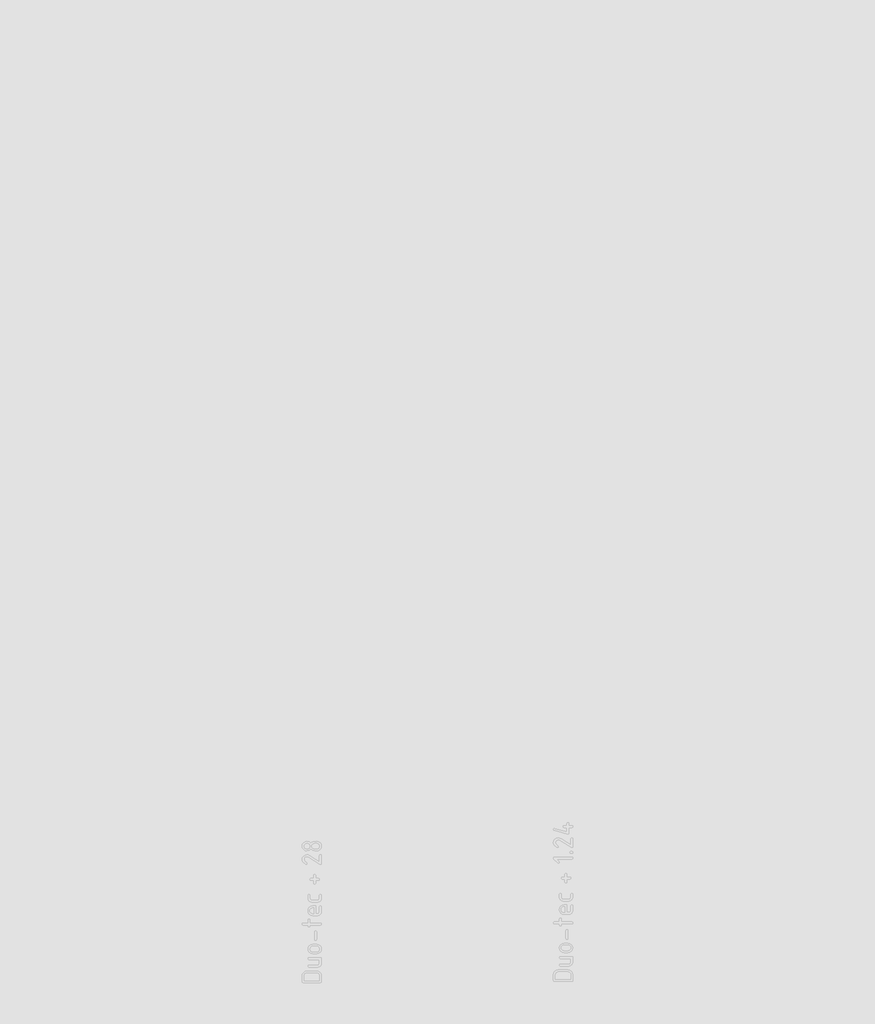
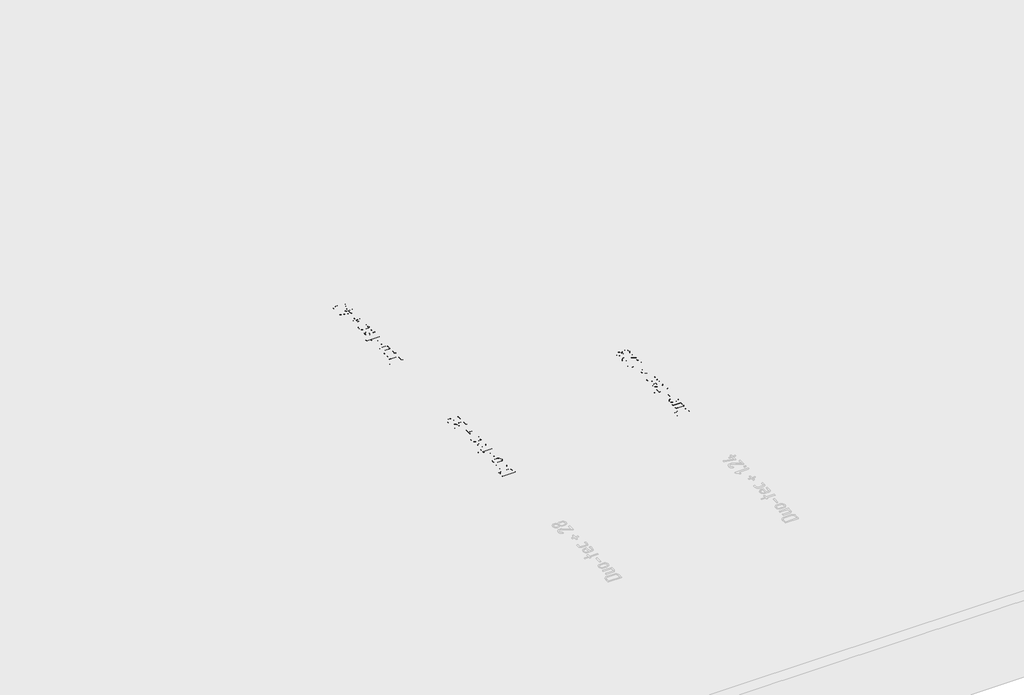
# One storey, part 36 of 37: 3 proxies.
"""IFC4 building model written with IfcOpenShell, lengths in millimetres."""

from ifc_helpers import new_model, si_unit, frame, origin, place, context, project, spatial, polyline, outline, extrude, element, save

model = new_model("IFC4")

# Units and contexts
model_context = context("Model", 3, world=origin())
ifc_project = project(units=[si_unit("LENGTHUNIT", "METRE", prefix="MILLI")], contexts=[model_context])

# Site, building, storey
site = spatial("IfcSite", under=ifc_project)
building = spatial("IfcBuilding", under=site)
storey = spatial("IfcBuildingStorey", under=building, Name="01_Стартовый вид_Площадка", Elevation=0.0)

# Proxies
placement = place(None, origin())
element("IfcBuildingElementProxy", 1, Name="150 мм", ObjectType="150 мм", at=placement, inside=storey, context=model_context, shape_type="SweptSolid", body=[
    extrude(outline(polyline([(19786.8818775, 34.2391471), (19781.2187379, 36.1068845), (19779.3310247, 41.7100967), (19779.3310247, 86.455891), (19782.0577216, 100.9283588), (19790.2378121, 112.9438032), (19802.393087, 121.0340026), (19817.0453371, 123.7307357), (19892.4739618, 123.7307357), (19906.9763934, 121.0040389), (19919.161632, 112.8239484), (19927.4316136, 100.7785403), (19930.1882742, 86.455891), (19930.1882742, 41.7100967), (19928.300561, 36.1068845), (19922.6374214, 34.2391471), (19786.8818775, 34.2391471)]), holes=[polyline([(19794.6724399, 49.5805623), (19914.846859, 49.5805623), (19914.846859, 86.3360362), (19913.1988554, 94.8107698), (19908.2548446, 101.9371368), (19900.9736651, 106.7762746), (19892.3141554, 108.3893205), (19817.2051435, 108.3893205), (19808.5456337, 106.7762746), (19801.2644543, 101.9371368), (19796.3204435, 94.8107698), (19794.6724399, 86.3360362), (19794.6724399, 49.5805623)])]), frame((0.0, 0.0, -10.0), z_axis=(0.0, 0.0, 1.0), x_axis=(1.0, 0.0, 0.0)), (0.0, 0.0, 1.0), 10.0),
    extrude(outline(polyline([(19832.8262199, 228.5637396), (19922.7173246, 228.5637396), (19928.3205368, 226.7059901), (19930.1882742, 221.1327416), (19930.1882742, 184.0576549), (19928.0208998, 172.5615814), (19921.5187765, 163.0031606), (19911.8604767, 156.5609647), (19900.2245726, 154.4135661), (19832.8262199, 154.4135661), (19827.2230077, 156.331243), (19825.3552703, 162.0842737), (19827.2230077, 167.8373044), (19832.8262199, 169.7549813), (19899.9449114, 169.7549813), (19910.4322069, 174.0298027), (19914.846859, 184.2574129), (19914.846859, 213.2223244), (19832.8262199, 213.2223244), (19827.2230077, 215.1400013), (19825.3552703, 220.893032), (19827.2230077, 226.6460627), (19832.8262199, 228.5637396)])), frame((0.0, 0.0, -10.0), z_axis=(0.0, 0.0, 1.0), x_axis=(1.0, 0.0, 0.0)), (0.0, 0.0, 1.0), 10.0),
    extrude(outline(polyline([(19892.753623, 259.24657), (19862.7899215, 259.24657), (19848.3973568, 261.958285), (19836.3020093, 270.0934299), (19828.0919551, 282.0739166), (19825.3552703, 296.3216567), (19828.0619914, 310.7192153), (19836.1821545, 322.6697383), (19848.2475383, 330.7149921), (19862.7899215, 333.3967434), (19892.753623, 333.3967434), (19907.1461877, 330.6850284), (19919.2415352, 322.5498835), (19927.4515894, 310.5693968), (19930.1882742, 296.3216567), (19927.4515894, 282.0739166), (19919.2415352, 270.0934299), (19907.1461877, 261.958285), (19892.753623, 259.24657)]), holes=[polyline([(19892.3141554, 318.0553282), (19862.3105022, 318.0553282), (19853.6809562, 316.4622581), (19846.4097646, 311.6830477), (19841.4657539, 304.6565597), (19839.8177503, 296.3216567), (19841.4657539, 287.9867537), (19846.4097646, 280.9602657), (19853.6809562, 276.1810553), (19862.3105022, 274.5879852), (19892.3141554, 274.5879852), (19901.0236047, 276.1660734), (19908.2947962, 280.9003383), (19913.2088433, 287.9118445), (19914.846859, 296.3216567), (19913.1988554, 304.6565597), (19908.2548446, 311.6830477), (19900.9736651, 316.4622581), (19892.3141554, 318.0553282)])]), frame((0.0, 0.0, -10.0), z_axis=(0.0, 0.0, 1.0), x_axis=(1.0, 0.0, 0.0)), (0.0, 0.0, 1.0), 10.0),
    extrude(outline(polyline([(19891.8347362, 431.2382169), (19891.8347362, 371.2309106), (19889.9170593, 365.5977347), (19884.1640286, 363.7200094), (19878.4109979, 365.5977347), (19876.493321, 371.2309106), (19876.493321, 431.2382169), (19878.4109979, 436.8713928), (19884.1640286, 438.7491181), (19889.9170593, 436.8713928), (19891.8347362, 431.2382169)])), frame((0.0, 0.0, -10.0), z_axis=(0.0, 0.0, 1.0), x_axis=(1.0, 0.0, 0.0)), (0.0, 0.0, 1.0), 10.0),
    extrude(outline(polyline([(19840.6966855, 484.2539929), (19840.6966855, 476.7430917), (19838.7790086, 471.1099158), (19833.0259779, 469.2321905), (19827.2729472, 471.1099158), (19825.3552703, 476.7430917), (19825.3552703, 484.2539929), (19787.0017323, 484.2539929), (19781.2487016, 486.1716698), (19779.3310247, 491.9247005), (19781.2487016, 497.6777312), (19787.0017323, 499.5954081), (19825.3552703, 499.5954081), (19825.3552703, 522.1281116), (19827.2729472, 527.7313238), (19833.0259779, 529.5990612), (19838.7790086, 527.7313238), (19840.6966855, 522.1281116), (19840.6966855, 499.5954081), (19922.7173246, 499.5954081), (19928.3205368, 497.6777312), (19930.1882742, 491.9247005), (19928.3205368, 486.1716698), (19922.7173246, 484.2539929), (19840.6966855, 484.2539929)])), frame((0.0, 0.0, -10.0), z_axis=(0.0, 0.0, 1.0), x_axis=(1.0, 0.0, 0.0)), (0.0, 0.0, 1.0), 10.0),
    extrude(outline(polyline([(19884.1640286, 573.7455815), (19899.5054438, 573.7455815), (19910.3123521, 578.1802093), (19914.846859, 588.7274323), (19914.846859, 626.2419866), (19916.7645359, 631.8751625), (19922.5175666, 633.7528878), (19928.2705973, 631.8751625), (19930.1882742, 626.2419866), (19930.1882742, 588.7274323), (19928.0208998, 577.0715524), (19921.5187765, 567.273422), (19911.8604767, 560.6214802), (19900.2245726, 558.4041663), (19862.7899215, 558.4041663), (19848.3973568, 561.1857966), (19836.3020093, 569.5306875), (19828.0919551, 581.7708596), (19825.3552703, 596.2383335), (19828.0120519, 610.8156743), (19835.9823965, 622.9060279), (19847.8280465, 631.0411728), (19862.1107442, 633.7528878), (19884.1640286, 633.7528878), (19884.1640286, 573.7455815)]), holes=[polyline([(19838.8189602, 596.2383335), (19840.4669638, 587.6087874), (19845.4109746, 580.3375959), (19852.6821661, 575.3935851), (19861.3117122, 573.7455815), (19868.8226134, 573.7455815), (19868.8226134, 618.7310855), (19861.3117122, 618.7310855), (19852.6821661, 617.0830819), (19845.4109746, 612.1390711), (19840.4669638, 604.8678795), (19838.8189602, 596.2383335)])]), frame((0.0, 0.0, -10.0), z_axis=(0.0, 0.0, 1.0), x_axis=(1.0, 0.0, 0.0)), (0.0, 0.0, 1.0), 10.0),
    extrude(outline(polyline([(19855.5187299, 678.5785854), (19900.0248146, 678.5785854), (19910.4721585, 683.0132132), (19914.846859, 693.5604361), (19914.846859, 716.0931397), (19916.7645359, 721.6963519), (19922.5175666, 723.5640893), (19928.2705973, 721.6963519), (19930.1882742, 716.0931397), (19930.1882742, 693.5604361), (19928.0208998, 681.9045562), (19921.5187765, 672.1064258), (19911.8604767, 665.4544841), (19900.2245726, 663.2371702), (19855.3189719, 663.2371702), (19843.6830678, 665.4544841), (19834.024768, 672.1064258), (19827.5226447, 681.9045562), (19825.3552703, 693.5604361), (19825.3552703, 716.0931397), (19827.2729472, 721.6963519), (19833.0259779, 723.5640893), (19838.7790086, 721.6963519), (19840.6966855, 716.0931397), (19840.6966855, 693.5604361), (19845.0314343, 682.9532858), (19855.5187299, 678.5785854)])), frame((0.0, 0.0, -10.0), z_axis=(0.0, 0.0, 1.0), x_axis=(1.0, 0.0, 0.0)), (0.0, 0.0, 1.0), 10.0),
    extrude(outline(polyline([(19884.1640286, 834.5496399), (19884.1640286, 812.0568879), (19882.2463517, 806.423712), (19876.493321, 804.5459867), (19870.7402903, 806.423712), (19868.8226134, 812.0568879), (19868.8226134, 834.5496399), (19847.7281675, 834.5496399), (19842.454556, 836.4673168), (19840.6966855, 842.2203475), (19842.454556, 847.9733782), (19847.7281675, 849.8910551), (19868.8226134, 849.8910551), (19868.8226134, 872.383807), (19870.7402903, 878.0169829), (19876.493321, 879.8947082), (19882.2463517, 878.0169829), (19884.1640286, 872.383807), (19884.1640286, 849.8910551), (19907.1761514, 849.8910551), (19912.9291821, 847.9733782), (19914.846859, 842.2203475), (19912.9291821, 836.4673168), (19907.1761514, 834.5496399), (19884.1640286, 834.5496399)])), frame((0.0, 0.0, -10.0), z_axis=(0.0, 0.0, 1.0), x_axis=(1.0, 0.0, 0.0)), (0.0, 0.0, 1.0), 10.0),
    extrude(outline(polyline([(19805.0598565, 990.5206944), (19822.3589002, 973.2616023), (19824.5162867, 968.0279424), (19822.6385614, 962.3947665), (19817.0053855, 960.5170412), (19811.7717256, 962.7143793), (19782.2874433, 992.0388553), (19779.3310247, 998.191402), (19781.2187379, 1003.9444327), (19786.8818775, 1005.8621096), (19922.6374214, 1005.8621096), (19928.300561, 1003.9444327), (19930.1882742, 998.191402), (19928.300561, 992.4383713), (19922.6374214, 990.5206944), (19805.0598565, 990.5206944)])), frame((0.0, 0.0, -10.0), z_axis=(0.0, 0.0, 1.0), x_axis=(1.0, 0.0, 0.0)), (0.0, 0.0, 1.0), 10.0),
    extrude(outline(polyline([(19914.846859, 1036.54494), (19909.0938283, 1038.4626169), (19907.1761514, 1044.2156476), (19909.0938283, 1049.9686783), (19914.846859, 1051.8863552), (19922.5175666, 1051.8863552), (19928.2705973, 1049.9686783), (19930.1882742, 1044.2156476), (19928.2705973, 1038.4626169), (19922.5175666, 1036.54494), (19914.846859, 1036.54494)])), frame((0.0, 0.0, -10.0), z_axis=(0.0, 0.0, 1.0), x_axis=(1.0, 0.0, 0.0)), (0.0, 0.0, 1.0), 10.0),
    extrude(outline(polyline([(19779.3310247, 1119.7241755), (19782.0826913, 1134.1516978), (19790.3376911, 1146.2720151), (19802.49796, 1154.4970512), (19816.9654339, 1157.2387298), (19827.7623543, 1155.5307989), (19838.6591538, 1150.4070059), (19914.846859, 1103.1442606), (19914.846859, 1149.7278287), (19916.7645359, 1155.3610045), (19922.5175666, 1157.2387298), (19928.2705973, 1155.3610045), (19930.1882742, 1149.7278287), (19930.1882742, 1089.7205223), (19928.3105489, 1084.0873464), (19922.677373, 1082.2096211), (19918.3226484, 1083.4880724), (19829.7099949, 1138.4614769), (19817.2450951, 1142.2169275), (19808.5805914, 1140.5689239), (19801.2844301, 1135.6249131), (19796.3254375, 1128.3537215), (19794.6724399, 1119.7241755), (19799.386729, 1107.4889974), (19813.5295961, 1096.1926819), (19817.1651919, 1089.7205223), (19815.2874666, 1084.0873464), (19809.6542907, 1082.2096211), (19806.5780173, 1082.92875), (19786.1427729, 1099.0991609), (19781.0339618, 1108.8548428), (19779.3310247, 1119.7241755)])), frame((0.0, 0.0, -10.0), z_axis=(0.0, 0.0, 1.0), x_axis=(1.0, 0.0, 0.0)), (0.0, 0.0, 1.0), 10.0),
    extrude(outline(polyline([(19930.1882742, 1224.4772761), (19927.4316136, 1210.2295361), (19919.161632, 1198.2490494), (19906.9763934, 1190.1139044), (19892.4739618, 1187.4021894), (19877.3722562, 1187.4021894), (19860.4627406, 1191.2375432), (19847.2087967, 1202.7436046), (19833.9548527, 1191.2375432), (19817.0453371, 1187.4021894), (19802.5429055, 1190.1139044), (19790.3576669, 1198.2490494), (19782.0876853, 1210.2295361), (19779.3310247, 1224.4772761), (19782.0876853, 1238.7250162), (19790.3576669, 1250.7055029), (19802.5429055, 1258.8406479), (19817.0453371, 1261.5523629), (19833.9548527, 1257.7170091), (19847.2087967, 1246.2109477), (19856.3876772, 1254.4609535), (19867.4642589, 1258.9954603), (19892.4739618, 1261.5523629), (19906.9763934, 1258.8406479), (19919.161632, 1250.7055029), (19927.4316136, 1238.7250162), (19930.1882742, 1224.4772761)]), holes=[polyline([(19840.1773147, 1224.4772761), (19838.544293, 1232.8870884), (19833.6452277, 1239.8985945), (19826.389018, 1244.6328594), (19817.6845627, 1246.2109477), (19809.0550167, 1244.6178775), (19801.7838251, 1239.8386671), (19796.8398143, 1232.8121791), (19795.1918108, 1224.4772761), (19796.8248325, 1216.0674639), (19801.7238977, 1209.0559577), (19808.9801074, 1204.3216929), (19817.6845627, 1202.7436046), (19826.389018, 1204.3216929), (19833.6452277, 1209.0559577), (19838.544293, 1216.0674639), (19840.1773147, 1224.4772761)]), polyline([(19914.846859, 1224.4772761), (19913.2088433, 1232.8870884), (19908.2947962, 1239.8985945), (19901.0236047, 1244.6328594), (19892.3141554, 1246.2109477), (19877.3323046, 1246.2109477), (19868.7027586, 1244.6178775), (19861.431567, 1239.8386671), (19856.4875562, 1232.8121791), (19854.8395527, 1224.4772761), (19856.4725744, 1216.0674639), (19861.3716396, 1209.0559577), (19868.6278493, 1204.3216929), (19877.3323046, 1202.7436046), (19892.3141554, 1202.7436046), (19901.0236047, 1204.3216929), (19908.2947962, 1209.0559577), (19913.2088433, 1216.0674639), (19914.846859, 1224.4772761)])]), frame((0.0, 0.0, -10.0), z_axis=(0.0, 0.0, 1.0), x_axis=(1.0, 0.0, 0.0)), (0.0, 0.0, 1.0), 10.0),
])
element("IfcBuildingElementProxy", 2, Name="150 мм", ObjectType="150 мм", at=placement, inside=storey, context=model_context, shape_type="SweptSolid", body=[
    extrude(outline(polyline([(17819.9837715, 5.2255376), (17814.3206319, 7.093275), (17812.4329187, 12.6964871), (17812.4329187, 57.4422815), (17815.1596155, 71.9147493), (17823.3397061, 83.9301937), (17835.494981, 92.0203931), (17850.1472311, 94.7171262), (17925.5758558, 94.7171262), (17940.0782873, 91.9904294), (17952.263526, 83.8103388), (17960.5335076, 71.7649308), (17963.2901681, 57.4422815), (17963.2901681, 12.6964871), (17961.4024549, 7.093275), (17955.7393153, 5.2255376), (17819.9837715, 5.2255376)]), holes=[polyline([(17827.7743339, 20.5669528), (17947.9487529, 20.5669528), (17947.9487529, 57.3224267), (17946.3007494, 65.7971603), (17941.3567386, 72.9235273), (17934.0755591, 77.7626651), (17925.4160494, 79.375711), (17850.3070375, 79.375711), (17841.6475277, 77.7626651), (17834.3663482, 72.9235273), (17829.4223375, 65.7971603), (17827.7743339, 57.3224267), (17827.7743339, 20.5669528)])]), frame((0.0, 0.0, -10.0), z_axis=(0.0, 0.0, 1.0), x_axis=(1.0, 0.0, 0.0)), (0.0, 0.0, 1.0), 10.0),
    extrude(outline(polyline([(17865.9281139, 199.5501301), (17955.8192185, 199.5501301), (17961.4224307, 197.6923806), (17963.2901681, 192.1191321), (17963.2901681, 155.0440453), (17961.1227937, 143.5479719), (17954.6206705, 133.9895511), (17944.9623707, 127.5473552), (17933.3264666, 125.3999566), (17865.9281139, 125.3999566), (17860.3249017, 127.3176335), (17858.4571643, 133.0706642), (17860.3249017, 138.8236949), (17865.9281139, 140.7413718), (17933.0468054, 140.7413718), (17943.5341009, 145.0161932), (17947.9487529, 155.2438034), (17947.9487529, 184.2087149), (17865.9281139, 184.2087149), (17860.3249017, 186.1263918), (17858.4571643, 191.8794225), (17860.3249017, 197.6324532), (17865.9281139, 199.5501301)])), frame((0.0, 0.0, -10.0), z_axis=(0.0, 0.0, 1.0), x_axis=(1.0, 0.0, 0.0)), (0.0, 0.0, 1.0), 10.0),
    extrude(outline(polyline([(17925.855517, 230.2329605), (17895.8918154, 230.2329605), (17881.4992508, 232.9446754), (17869.4039033, 241.0798204), (17861.193849, 253.0603071), (17858.4571643, 267.3080472), (17861.1638853, 281.7056058), (17869.2840485, 293.6561288), (17881.3494323, 301.7013826), (17895.8918154, 304.3831339), (17925.855517, 304.3831339), (17940.2480816, 301.6714189), (17952.3434292, 293.5362739), (17960.5534834, 281.5557873), (17963.2901681, 267.3080472), (17960.5534834, 253.0603071), (17952.3434292, 241.0798204), (17940.2480816, 232.9446754), (17925.855517, 230.2329605)]), holes=[polyline([(17925.4160494, 289.0417187), (17895.4123962, 289.0417187), (17886.7828502, 287.4486486), (17879.5116586, 282.6694382), (17874.5676478, 275.6429502), (17872.9196442, 267.3080472), (17874.5676478, 258.9731442), (17879.5116586, 251.9466562), (17886.7828502, 247.1674458), (17895.4123962, 245.5743757), (17925.4160494, 245.5743757), (17934.1254986, 247.1524639), (17941.3966902, 251.8867288), (17946.3107373, 258.8982349), (17947.9487529, 267.3080472), (17946.3007494, 275.6429502), (17941.3567386, 282.6694382), (17934.0755591, 287.4486486), (17925.4160494, 289.0417187)])]), frame((0.0, 0.0, -10.0), z_axis=(0.0, 0.0, 1.0), x_axis=(1.0, 0.0, 0.0)), (0.0, 0.0, 1.0), 10.0),
    extrude(outline(polyline([(17924.9366301, 402.2246074), (17924.9366301, 342.2173011), (17923.0189532, 336.5841252), (17917.2659225, 334.7063999), (17911.5128918, 336.5841252), (17909.5952149, 342.2173011), (17909.5952149, 402.2246074), (17911.5128918, 407.8577833), (17917.2659225, 409.7355086), (17923.0189532, 407.8577833), (17924.9366301, 402.2246074)])), frame((0.0, 0.0, -10.0), z_axis=(0.0, 0.0, 1.0), x_axis=(1.0, 0.0, 0.0)), (0.0, 0.0, 1.0), 10.0),
    extrude(outline(polyline([(17873.7985795, 455.2403834), (17873.7985795, 447.7294822), (17871.8809026, 442.0963063), (17866.1278719, 440.218581), (17860.3748412, 442.0963063), (17858.4571643, 447.7294822), (17858.4571643, 455.2403834), (17820.1036263, 455.2403834), (17814.3505956, 457.1580603), (17812.4329187, 462.911091), (17814.3505956, 468.6641217), (17820.1036263, 470.5817986), (17858.4571643, 470.5817986), (17858.4571643, 493.1145021), (17860.3748412, 498.7177143), (17866.1278719, 500.5854517), (17871.8809026, 498.7177143), (17873.7985795, 493.1145021), (17873.7985795, 470.5817986), (17955.8192185, 470.5817986), (17961.4224307, 468.6641217), (17963.2901681, 462.911091), (17961.4224307, 457.1580603), (17955.8192185, 455.2403834), (17873.7985795, 455.2403834)])), frame((0.0, 0.0, -10.0), z_axis=(0.0, 0.0, 1.0), x_axis=(1.0, 0.0, 0.0)), (0.0, 0.0, 1.0), 10.0),
    extrude(outline(polyline([(17917.2659225, 544.731972), (17932.6073377, 544.731972), (17943.4142461, 549.1665998), (17947.9487529, 559.7138228), (17947.9487529, 597.2283771), (17949.8664298, 602.861553), (17955.6194605, 604.7392783), (17961.3724912, 602.861553), (17963.2901681, 597.2283771), (17963.2901681, 559.7138228), (17961.1227937, 548.0579429), (17954.6206705, 538.2598125), (17944.9623707, 531.6078707), (17933.3264666, 529.3905568), (17895.8918154, 529.3905568), (17881.4992508, 532.1721871), (17869.4039033, 540.517078), (17861.193849, 552.7572501), (17858.4571643, 567.224724), (17861.1139458, 581.8020648), (17869.0842904, 593.8924184), (17880.9299405, 602.0275633), (17895.2126382, 604.7392783), (17917.2659225, 604.7392783), (17917.2659225, 544.731972)]), holes=[polyline([(17871.9208542, 567.224724), (17873.5688578, 558.5951779), (17878.5128685, 551.3239864), (17885.7840601, 546.3799756), (17894.4136062, 544.731972), (17901.9245073, 544.731972), (17901.9245073, 589.7174759), (17894.4136062, 589.7174759), (17885.7840601, 588.0694724), (17878.5128685, 583.1254616), (17873.5688578, 575.85427), (17871.9208542, 567.224724)])]), frame((0.0, 0.0, -10.0), z_axis=(0.0, 0.0, 1.0), x_axis=(1.0, 0.0, 0.0)), (0.0, 0.0, 1.0), 10.0),
    extrude(outline(polyline([(17888.6206239, 649.5649759), (17933.1267086, 649.5649759), (17943.5740525, 653.9996037), (17947.9487529, 664.5468266), (17947.9487529, 687.0795302), (17949.8664298, 692.6827424), (17955.6194605, 694.5504798), (17961.3724912, 692.6827424), (17963.2901681, 687.0795302), (17963.2901681, 664.5468266), (17961.1227937, 652.8909467), (17954.6206705, 643.0928163), (17944.9623707, 636.4408746), (17933.3264666, 634.2235607), (17888.4208658, 634.2235607), (17876.7849617, 636.4408746), (17867.1266619, 643.0928163), (17860.6245387, 652.8909467), (17858.4571643, 664.5468266), (17858.4571643, 687.0795302), (17860.3748412, 692.6827424), (17866.1278719, 694.5504798), (17871.8809026, 692.6827424), (17873.7985795, 687.0795302), (17873.7985795, 664.5468266), (17878.1333283, 653.9396763), (17888.6206239, 649.5649759)])), frame((0.0, 0.0, -10.0), z_axis=(0.0, 0.0, 1.0), x_axis=(1.0, 0.0, 0.0)), (0.0, 0.0, 1.0), 10.0),
    extrude(outline(polyline([(17917.2659225, 805.5360304), (17917.2659225, 783.0432784), (17915.3482456, 777.4101025), (17909.5952149, 775.5323772), (17903.8421842, 777.4101025), (17901.9245073, 783.0432784), (17901.9245073, 805.5360304), (17880.8300615, 805.5360304), (17875.55645, 807.4537073), (17873.7985795, 813.206738), (17875.55645, 818.9597687), (17880.8300615, 820.8774456), (17901.9245073, 820.8774456), (17901.9245073, 843.3701975), (17903.8421842, 849.0033734), (17909.5952149, 850.8810987), (17915.3482456, 849.0033734), (17917.2659225, 843.3701975), (17917.2659225, 820.8774456), (17940.2780453, 820.8774456), (17946.031076, 818.9597687), (17947.9487529, 813.206738), (17946.031076, 807.4537073), (17940.2780453, 805.5360304), (17917.2659225, 805.5360304)])), frame((0.0, 0.0, -10.0), z_axis=(0.0, 0.0, 1.0), x_axis=(1.0, 0.0, 0.0)), (0.0, 0.0, 1.0), 10.0),
    extrude(outline(polyline([(17889.1399947, 967.1402608), (17889.1399947, 952.15841), (17887.2223178, 946.5252341), (17881.4692871, 944.6475088), (17875.7162564, 946.5252341), (17873.7985795, 952.15841), (17873.7985795, 967.1402608), (17872.1256061, 975.8447161), (17867.1066861, 983.1009258), (17859.6806821, 987.999991), (17850.7864567, 989.6330127), (17841.9421708, 987.9850092), (17834.5061788, 983.0409984), (17829.4572951, 975.7698068), (17827.7743339, 967.1402608), (17827.7743339, 937.1366076), (17825.856657, 931.5034317), (17820.1036263, 929.6257064), (17814.3505956, 931.5034317), (17812.4329187, 937.1366076), (17812.4329187, 967.1402608), (17815.2495066, 981.6077347), (17823.6992705, 993.8479068), (17836.1042429, 1002.1927976), (17850.7864567, 1004.9744279), (17867.9856214, 1001.2189773), (17881.4692871, 989.9526256), (17894.5434489, 1001.2189773), (17911.2332306, 1004.9744279), (17926.0952266, 1004.9744279), (17940.407888, 1002.1778158), (17952.4233324, 993.7879794), (17960.5734592, 981.5328254), (17963.2901681, 967.1402608), (17963.2901681, 937.1366076), (17961.3724912, 931.5034317), (17955.6194605, 929.6257064), (17949.8664298, 931.5034317), (17947.9487529, 937.1366076), (17947.9487529, 967.1402608), (17946.3456949, 975.8447161), (17941.5365208, 983.1009258), (17934.4201417, 987.999991), (17925.8954686, 989.6330127), (17911.193279, 989.6330127), (17902.7185454, 987.9850092), (17895.5921784, 983.0409984), (17890.7530406, 975.7698068), (17889.1399947, 967.1402608)])), frame((0.0, 0.0, -10.0), z_axis=(0.0, 0.0, 1.0), x_axis=(1.0, 0.0, 0.0)), (0.0, 0.0, 1.0), 10.0),
    extrude(outline(polyline([(17889.1399947, 1071.9732646), (17889.1399947, 1056.9914138), (17887.2223178, 1051.3582379), (17881.4692871, 1049.4805126), (17875.7162564, 1051.3582379), (17873.7985795, 1056.9914138), (17873.7985795, 1071.9732646), (17872.1256061, 1080.6777199), (17867.1066861, 1087.9339296), (17859.6806821, 1092.8329949), (17850.7864567, 1094.4660166), (17841.9421708, 1092.818013), (17834.5061788, 1087.8740022), (17829.4572951, 1080.6028107), (17827.7743339, 1071.9732646), (17827.7743339, 1041.9696115), (17825.856657, 1036.3364356), (17820.1036263, 1034.4587103), (17814.3505956, 1036.3364356), (17812.4329187, 1041.9696115), (17812.4329187, 1071.9732646), (17815.2495066, 1086.4407385), (17823.6992705, 1098.6809106), (17836.1042429, 1107.0258015), (17850.7864567, 1109.8074318), (17867.9856214, 1106.0519812), (17881.4692871, 1094.7856294), (17894.5434489, 1106.0519812), (17911.2332306, 1109.8074318), (17926.0952266, 1109.8074318), (17940.407888, 1107.0108196), (17952.4233324, 1098.6209832), (17960.5734592, 1086.3658293), (17963.2901681, 1071.9732646), (17963.2901681, 1041.9696115), (17961.3724912, 1036.3364356), (17955.6194605, 1034.4587103), (17949.8664298, 1036.3364356), (17947.9487529, 1041.9696115), (17947.9487529, 1071.9732646), (17946.3456949, 1080.6777199), (17941.5365208, 1087.9339296), (17934.4201417, 1092.8329949), (17925.8954686, 1094.4660166), (17911.193279, 1094.4660166), (17902.7185454, 1092.818013), (17895.5921784, 1087.8740022), (17890.7530406, 1080.6028107), (17889.1399947, 1071.9732646)])), frame((0.0, 0.0, -10.0), z_axis=(0.0, 0.0, 1.0), x_axis=(1.0, 0.0, 0.0)), (0.0, 0.0, 1.0), 10.0),
])
element("IfcBuildingElementProxy", 3, Name="150 мм", ObjectType="150 мм", at=placement, inside=storey, context=model_context, shape_type="SweptSolid", body=[
    extrude(outline(polyline([(17823.5195626, 2169.6582761), (17817.856423, 2171.5260135), (17815.9687098, 2177.1292257), (17815.9687098, 2221.87502), (17818.6954066, 2236.3474879), (17826.8754971, 2248.3629322), (17839.0307721, 2256.4531316), (17853.6830221, 2259.1498648), (17929.1116469, 2259.1498648), (17943.6140784, 2256.4231679), (17955.799317, 2248.2430774), (17964.0692987, 2236.1976694), (17966.8259592, 2221.87502), (17966.8259592, 2177.1292257), (17964.938246, 2171.5260135), (17959.2751064, 2169.6582761), (17823.5195626, 2169.6582761)]), holes=[polyline([(17831.310125, 2184.9996913), (17951.484544, 2184.9996913), (17951.484544, 2221.7551652), (17949.8365404, 2230.2298988), (17944.8925297, 2237.3562658), (17937.6113502, 2242.1954036), (17928.9518404, 2243.8084496), (17853.8428285, 2243.8084496), (17845.1833188, 2242.1954036), (17837.9021393, 2237.3562658), (17832.9581286, 2230.2298988), (17831.310125, 2221.7551652), (17831.310125, 2184.9996913)])]), frame((0.0, 0.0, -10.0), z_axis=(0.0, 0.0, 1.0), x_axis=(1.0, 0.0, 0.0)), (0.0, 0.0, 1.0), 10.0),
    extrude(outline(polyline([(17869.463905, 2363.9828686), (17959.3550096, 2363.9828686), (17964.9582218, 2362.1251191), (17966.8259592, 2356.5518706), (17966.8259592, 2319.4767839), (17964.6585848, 2307.9807104), (17958.1564616, 2298.4222896), (17948.4981618, 2291.9800938), (17936.8622577, 2289.8326952), (17869.463905, 2289.8326952), (17863.8606928, 2291.7503721), (17861.9929554, 2297.5034028), (17863.8606928, 2303.2564335), (17869.463905, 2305.1741104), (17936.5825964, 2305.1741104), (17947.069892, 2309.4489318), (17951.484544, 2319.6765419), (17951.484544, 2348.6414534), (17869.463905, 2348.6414534), (17863.8606928, 2350.5591303), (17861.9929554, 2356.312161), (17863.8606928, 2362.0651917), (17869.463905, 2363.9828686)])), frame((0.0, 0.0, -10.0), z_axis=(0.0, 0.0, 1.0), x_axis=(1.0, 0.0, 0.0)), (0.0, 0.0, 1.0), 10.0),
    extrude(outline(polyline([(17929.3913081, 2394.665699), (17899.4276065, 2394.665699), (17885.0350419, 2397.377414), (17872.9396943, 2405.512559), (17864.7296401, 2417.4930457), (17861.9929554, 2431.7407857), (17864.6996764, 2446.1383443), (17872.8198395, 2458.0888673), (17884.8852234, 2466.1341212), (17899.4276065, 2468.8158725), (17929.3913081, 2468.8158725), (17943.7838727, 2466.1041575), (17955.8792202, 2457.9690125), (17964.0892745, 2445.9885258), (17966.8259592, 2431.7407857), (17964.0892745, 2417.4930457), (17955.8792202, 2405.512559), (17943.7838727, 2397.377414), (17929.3913081, 2394.665699)]), holes=[polyline([(17928.9518404, 2453.4744573), (17898.9481873, 2453.4744573), (17890.3186412, 2451.8813871), (17883.0474497, 2447.1021767), (17878.1034389, 2440.0756887), (17876.4554353, 2431.7407857), (17878.1034389, 2423.4058828), (17883.0474497, 2416.3793948), (17890.3186412, 2411.6001844), (17898.9481873, 2410.0071142), (17928.9518404, 2410.0071142), (17937.6612897, 2411.5852025), (17944.9324813, 2416.3194673), (17949.8465283, 2423.3309735), (17951.484544, 2431.7407857), (17949.8365404, 2440.0756887), (17944.8925297, 2447.1021767), (17937.6113502, 2451.8813871), (17928.9518404, 2453.4744573)])]), frame((0.0, 0.0, -10.0), z_axis=(0.0, 0.0, 1.0), x_axis=(1.0, 0.0, 0.0)), (0.0, 0.0, 1.0), 10.0),
    extrude(outline(polyline([(17928.4724212, 2566.657346), (17928.4724212, 2506.6500396), (17926.5547443, 2501.0168638), (17920.8017136, 2499.1391385), (17915.0486829, 2501.0168638), (17913.131006, 2506.6500396), (17913.131006, 2566.657346), (17915.0486829, 2572.2905219), (17920.8017136, 2574.1682472), (17926.5547443, 2572.2905219), (17928.4724212, 2566.657346)])), frame((0.0, 0.0, -10.0), z_axis=(0.0, 0.0, 1.0), x_axis=(1.0, 0.0, 0.0)), (0.0, 0.0, 1.0), 10.0),
    extrude(outline(polyline([(17877.3343706, 2619.6731219), (17877.3343706, 2612.1622207), (17875.4166937, 2606.5290448), (17869.663663, 2604.6513195), (17863.9106323, 2606.5290448), (17861.9929554, 2612.1622207), (17861.9929554, 2619.6731219), (17823.6394174, 2619.6731219), (17817.8863867, 2621.5907988), (17815.9687098, 2627.3438295), (17817.8863867, 2633.0968602), (17823.6394174, 2635.0145371), (17861.9929554, 2635.0145371), (17861.9929554, 2657.5472407), (17863.9106323, 2663.1504529), (17869.663663, 2665.0181903), (17875.4166937, 2663.1504529), (17877.3343706, 2657.5472407), (17877.3343706, 2635.0145371), (17959.3550096, 2635.0145371), (17964.9582218, 2633.0968602), (17966.8259592, 2627.3438295), (17964.9582218, 2621.5907988), (17959.3550096, 2619.6731219), (17877.3343706, 2619.6731219)])), frame((0.0, 0.0, -10.0), z_axis=(0.0, 0.0, 1.0), x_axis=(1.0, 0.0, 0.0)), (0.0, 0.0, 1.0), 10.0),
    extrude(outline(polyline([(17920.8017136, 2709.1647106), (17936.1431288, 2709.1647106), (17946.9500372, 2713.5993384), (17951.484544, 2724.1465614), (17951.484544, 2761.6611157), (17953.4022209, 2767.2942916), (17959.1552516, 2769.1720169), (17964.9082823, 2767.2942916), (17966.8259592, 2761.6611157), (17966.8259592, 2724.1465614), (17964.6585848, 2712.4906814), (17958.1564616, 2702.692551), (17948.4981618, 2696.0406093), (17936.8622577, 2693.8232954), (17899.4276065, 2693.8232954), (17885.0350419, 2696.6049257), (17872.9396943, 2704.9498166), (17864.7296401, 2717.1899886), (17861.9929554, 2731.6574625), (17864.6497369, 2746.2348033), (17872.6200815, 2758.3251569), (17884.4657315, 2766.4603019), (17898.7484293, 2769.1720169), (17920.8017136, 2769.1720169), (17920.8017136, 2709.1647106)]), holes=[polyline([(17875.4566453, 2731.6574625), (17877.1046489, 2723.0279165), (17882.0486596, 2715.7567249), (17889.3198512, 2710.8127142), (17897.9493972, 2709.1647106), (17905.4602984, 2709.1647106), (17905.4602984, 2754.1502145), (17897.9493972, 2754.1502145), (17889.3198512, 2752.5022109), (17882.0486596, 2747.5582002), (17877.1046489, 2740.2870086), (17875.4566453, 2731.6574625)])]), frame((0.0, 0.0, -10.0), z_axis=(0.0, 0.0, 1.0), x_axis=(1.0, 0.0, 0.0)), (0.0, 0.0, 1.0), 10.0),
    extrude(outline(polyline([(17892.1564149, 2813.9977144), (17936.6624997, 2813.9977144), (17947.1098436, 2818.4323423), (17951.484544, 2828.9795652), (17951.484544, 2851.5122688), (17953.4022209, 2857.115481), (17959.1552516, 2858.9832184), (17964.9082823, 2857.115481), (17966.8259592, 2851.5122688), (17966.8259592, 2828.9795652), (17964.6585848, 2817.3236853), (17958.1564616, 2807.5255549), (17948.4981618, 2800.8736131), (17936.8622577, 2798.6562992), (17891.9566569, 2798.6562992), (17880.3207528, 2800.8736131), (17870.662453, 2807.5255549), (17864.1603298, 2817.3236853), (17861.9929554, 2828.9795652), (17861.9929554, 2851.5122688), (17863.9106323, 2857.115481), (17869.663663, 2858.9832184), (17875.4166937, 2857.115481), (17877.3343706, 2851.5122688), (17877.3343706, 2828.9795652), (17881.6691194, 2818.3724148), (17892.1564149, 2813.9977144)])), frame((0.0, 0.0, -10.0), z_axis=(0.0, 0.0, 1.0), x_axis=(1.0, 0.0, 0.0)), (0.0, 0.0, 1.0), 10.0),
    extrude(outline(polyline([(17920.8017136, 2969.9687689), (17920.8017136, 2947.476017), (17918.8840367, 2941.8428411), (17913.131006, 2939.9651158), (17907.3779753, 2941.8428411), (17905.4602984, 2947.476017), (17905.4602984, 2969.9687689), (17884.3658525, 2969.9687689), (17879.0922411, 2971.8864458), (17877.3343706, 2977.6394765), (17879.0922411, 2983.3925072), (17884.3658525, 2985.3101841), (17905.4602984, 2985.3101841), (17905.4602984, 3007.8029361), (17907.3779753, 3013.436112), (17913.131006, 3015.3138373), (17918.8840367, 3013.436112), (17920.8017136, 3007.8029361), (17920.8017136, 2985.3101841), (17943.8138364, 2985.3101841), (17949.5668671, 2983.3925072), (17951.484544, 2977.6394765), (17949.5668671, 2971.8864458), (17943.8138364, 2969.9687689), (17920.8017136, 2969.9687689)])), frame((0.0, 0.0, -10.0), z_axis=(0.0, 0.0, 1.0), x_axis=(1.0, 0.0, 0.0)), (0.0, 0.0, 1.0), 10.0),
    extrude(outline(polyline([(17928.6322276, 3093.858687), (17926.5946959, 3094.0983966), (17821.4420793, 3124.1020497), (17817.3370521, 3126.7188797), (17815.9687098, 3131.3732413), (17817.8364472, 3137.0064172), (17823.4396594, 3138.8841425), (17825.5970459, 3138.5245781), (17920.8017136, 3111.2775855), (17920.8017136, 3146.3950437), (17898.2690101, 3146.3950437), (17892.6657979, 3148.3127206), (17890.7980605, 3154.0657513), (17892.6657979, 3159.818782), (17898.2690101, 3161.7364589), (17920.8017136, 3161.7364589), (17920.8017136, 3176.7582613), (17922.7193905, 3182.3614735), (17928.4724212, 3184.2292109), (17934.2254519, 3182.3614735), (17936.1431288, 3176.7582613), (17936.1431288, 3161.7364589), (17959.1552516, 3161.7364589), (17964.9082823, 3159.818782), (17966.8259592, 3154.0657513), (17964.9082823, 3148.3127206), (17959.1552516, 3146.3950437), (17936.1431288, 3146.3950437), (17936.1431288, 3101.3695882), (17934.2654035, 3095.7364123), (17928.6322276, 3093.858687)])), frame((0.0, 0.0, -10.0), z_axis=(0.0, 0.0, 1.0), x_axis=(1.0, 0.0, 0.0)), (0.0, 0.0, 1.0), 10.0),
    extrude(outline(polyline([(17891.3973345, 3289.5815855), (17916.5368801, 3287.9535578), (17938.0208541, 3283.0694744), (17959.6246829, 3270.6545141), (17965.0256401, 3262.2971383), (17966.8259592, 3252.5064988), (17965.0331311, 3242.7158593), (17959.6546466, 3234.3584836), (17938.1407089, 3221.9435232), (17916.6267712, 3217.0594399), (17891.3973345, 3215.4314121), (17866.1678978, 3217.0594399), (17844.6539601, 3221.9435232), (17823.1400223, 3234.3584836), (17817.7615379, 3242.7158593), (17815.9687098, 3252.5064988), (17817.7690288, 3262.2971383), (17823.1699861, 3270.6545141), (17844.7738149, 3283.0694744), (17866.2577889, 3287.9535578), (17891.3973345, 3289.5815855)]), holes=[polyline([(17891.3973345, 3274.2401703), (17856.2399247, 3270.4048165), (17837.5425749, 3263.0137702), (17831.310125, 3252.5064988), (17837.5725386, 3242.0891186), (17856.3597795, 3234.7280359), (17891.3973345, 3230.7728273), (17926.5547443, 3234.6081811), (17945.2520941, 3241.9992275), (17951.484544, 3252.5064988), (17945.2520941, 3263.0137702), (17926.5547443, 3270.4048165), (17891.3973345, 3274.2401703)])]), frame((0.0, 0.0, -10.0), z_axis=(0.0, 0.0, 1.0), x_axis=(1.0, 0.0, 0.0)), (0.0, 0.0, 1.0), 10.0),
])

save(model, "model.ifc")
